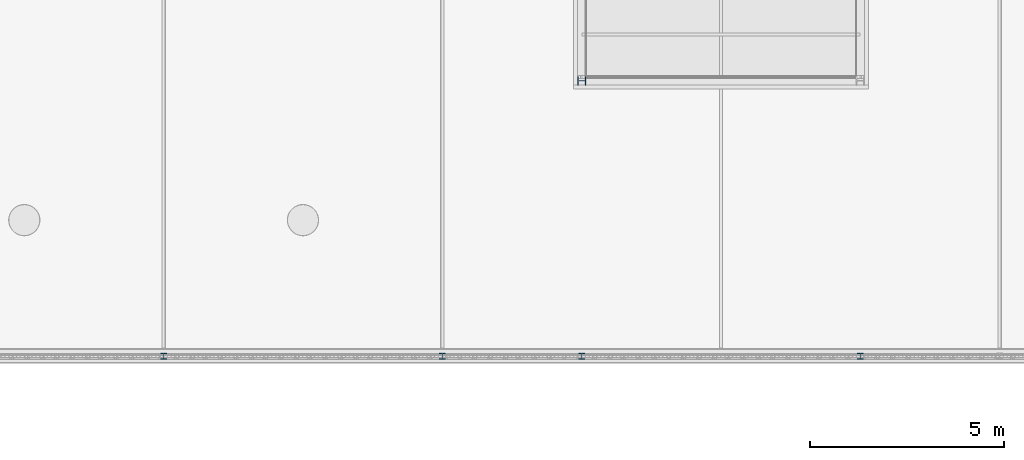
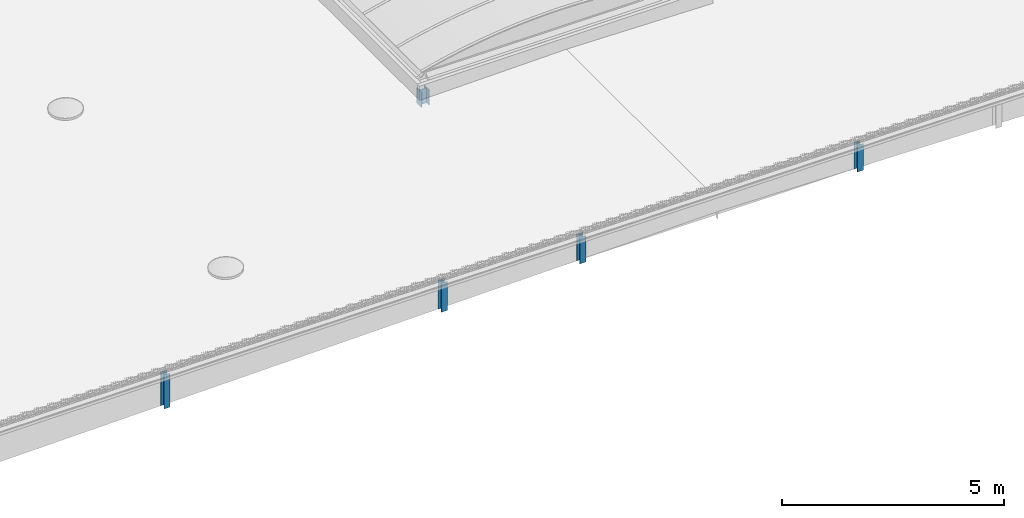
# One storey, part 23 of 81: 5 columns.
"""IFC2X3 building model written with IfcOpenShell, lengths in millimetres."""

import ifcopenshell
import ifcopenshell.guid

model = None  # the IFC model being written
_history = None  # IfcOwnerHistory: only IFC2X3 demands one
_inside = {}  # id of a spatial element -> (the spatial element, [elements in it])
_under = {}  # id of a project, library or spatial element -> (it, [spatial elements below it])
_declared = {}  # id of a project -> (the project, [libraries it declares])
_typed = {}  # id of a type object -> (the type object, [elements of that type])
_made_of = {}  # id of a material, layer set ... -> (it, [elements and type objects made of it])


def new_model(schema):
    """Start an empty IFC model of exactly this schema.

    Asked for "IFC4X3", IfcOpenShell would pick the latest addendum, in which some entities
    have other attributes; the version numbers below select the first issue.
    IFC2X3 requires an IfcOwnerHistory on every rooted entity: one is made here for all.
    """
    global model, _history
    if schema == "IFC4X3":
        model = ifcopenshell.file(schema_version=(4, 3, 0, 0))
    else:
        model = ifcopenshell.file(schema=schema)
    _inside.clear()
    _under.clear()
    _declared.clear()
    _typed.clear()
    _made_of.clear()
    _history = None
    if model.schema == "IFC2X3":
        org = make("IfcOrganization", Name="unknown")
        user = make(
            "IfcPersonAndOrganization",
            ThePerson=make("IfcPerson", FamilyName="unknown"),
            TheOrganization=org,
        )
        app = make(
            "IfcApplication",
            ApplicationDeveloper=org,
            Version="unknown",
            ApplicationFullName="unknown",
            ApplicationIdentifier="unknown",
        )
        _history = make(
            "IfcOwnerHistory",
            OwningUser=user,
            OwningApplication=app,
            ChangeAction="ADDED",
            CreationDate=0,
        )
    return model


def make(cls, **values):
    """One entity of the class cls with the attributes given. An attribute that is None is left unset."""
    return model.create_entity(
        cls, **{name: value for name, value in values.items() if value is not None}
    )


def entity(cls, *values):
    """Any entity or typed value of the class cls, its attributes in the order of the schema. None: left unset."""
    e = model.create_entity(cls)
    for i, value in enumerate(values):
        if value is not None:
            e[i] = value
    return e


def rooted(cls, **values):
    """An entity with a GlobalId (a new one), such as an element, a storey or a relation."""
    return make(cls, GlobalId=ifcopenshell.guid.new(), OwnerHistory=_history, **values)


def si_unit(unit_type, name, prefix=None):
    """IfcSIUnit, for example si_unit("LENGTHUNIT", "METRE", prefix="MILLI")."""
    return make("IfcSIUnit", UnitType=unit_type, Prefix=prefix, Name=name)


def converted_unit(unit_type, name, factor, base, dimensions=None, offset=None):
    """IfcConversionBasedUnit, such as the inch: factor (a typed value) times the base unit."""
    return make(
        "IfcConversionBasedUnit"
        if offset is None
        else "IfcConversionBasedUnitWithOffset",
        ConversionOffset=offset,
        Dimensions=None
        if dimensions is None
        else entity("IfcDimensionalExponents", *dimensions),
        UnitType=unit_type,
        Name=name,
        ConversionFactor=make(
            "IfcMeasureWithUnit", ValueComponent=factor, UnitComponent=base
        ),
    )


def derived_unit(unit_type, elements):
    """IfcDerivedUnit: a product of units, each with its exponent."""
    return make(
        "IfcDerivedUnit",
        Elements=[
            make("IfcDerivedUnitElement", Unit=unit, Exponent=power)
            for unit, power in elements
        ],
        UnitType=unit_type,
    )


def money_unit(currency):
    """IfcMonetaryUnit."""
    return make("IfcMonetaryUnit", Currency=currency)


def assignment(units):
    """IfcUnitAssignment: the units of a project."""
    return None if units is None else make("IfcUnitAssignment", Units=units)


def point(xyz):
    """IfcCartesianPoint."""
    return None if xyz is None else make("IfcCartesianPoint", Coordinates=xyz)


def direction(xyz):
    """IfcDirection."""
    return None if xyz is None else make("IfcDirection", DirectionRatios=xyz)


def frame(location, z_axis=None, x_axis=None):
    """IfcAxis2Placement3D, a coordinate frame: its origin and axes. An axis left out is left unset."""
    return make(
        "IfcAxis2Placement3D",
        Location=point(location),
        Axis=direction(z_axis),
        RefDirection=direction(x_axis),
    )


def origin_with_axes():
    """The frame at (0, 0, 0) with the z axis (0, 0, 1) and the x axis (1, 0, 0) written out."""
    return frame((0.0, 0.0, 0.0), z_axis=(0.0, 0.0, 1.0), x_axis=(1.0, 0.0, 0.0))


def place(relative_to, where):
    """IfcLocalPlacement: puts the frame where relative to a parent placement (None: the world)."""
    return make(
        "IfcLocalPlacement", PlacementRelTo=relative_to, RelativePlacement=where
    )


def context(
    kind, dimensions, precision=None, world=None, true_north=None, identifier=None
):
    """IfcGeometricRepresentationContext, for example the 3D "Model" context."""
    return make(
        "IfcGeometricRepresentationContext",
        ContextIdentifier=identifier,
        ContextType=kind,
        CoordinateSpaceDimension=dimensions,
        Precision=precision,
        WorldCoordinateSystem=world,
        TrueNorth=true_north,
    )


def subcontext(parent, identifier, kind, view, scale=None):
    """IfcGeometricRepresentationSubContext, for example "Body" below "Model"."""
    return make(
        "IfcGeometricRepresentationSubContext",
        ContextIdentifier=identifier,
        ContextType=kind,
        ParentContext=parent,
        TargetScale=scale,
        TargetView=view,
    )


def project(units=None, contexts=None):
    """IfcProject with its units and contexts."""
    return rooted(
        "IfcProject",
        Name="project",
        RepresentationContexts=contexts,
        UnitsInContext=assignment(units),
    )


def spatial(cls, under=None, at=None, **own):
    """A site, building, storey or space (cls), placed at a placement, below another one or the project."""
    s = rooted(cls, ObjectPlacement=at, **own)
    if under is not None:
        _under.setdefault(under.id(), (under, []))[1].append(s)
    return s


def faces_of(points, faces, orient=None, outer=None):
    """IfcFace entities. A face is a list of loops; a loop is a list of indices into points, from 0.

    orient and outer hold one flag for each loop. By default every Orientation is true, the
    first loop of a face is its IfcFaceOuterBound and the others are IfcFaceBound.
    """
    made = []
    for i, loops in enumerate(faces):
        bounds = []
        for j, loop in enumerate(loops):
            is_outer = j == 0 if outer is None else outer[i][j]
            bounds.append(
                make(
                    "IfcFaceOuterBound" if is_outer else "IfcFaceBound",
                    Bound=make("IfcPolyLoop", Polygon=[points[k] for k in loop]),
                    Orientation=True if orient is None else orient[i][j],
                )
            )
        made.append(make("IfcFace", Bounds=bounds))
    return made


def faceted_brep(points, faces, orient=None, outer=None, voids=None):
    """IfcFacetedBrep: a solid bounded by flat faces; with voids (closed shells), ...WithVoids."""
    shared = [point(p) for p in points]
    hull = make("IfcClosedShell", CfsFaces=faces_of(shared, faces, orient, outer))
    if voids is None:
        return make("IfcFacetedBrep", Outer=hull)
    return make(
        "IfcFacetedBrepWithVoids",
        Outer=hull,
        Voids=[
            make(cls, CfsFaces=faces_of(shared, fs, o, b)) for cls, fs, o, b in voids
        ],
    )


def shape(context_of_items, identifier, shape_type, items):
    """IfcShapeRepresentation: the items that make up one representation, for example the "Body"."""
    return make(
        "IfcShapeRepresentation",
        ContextOfItems=context_of_items,
        RepresentationIdentifier=identifier,
        RepresentationType=shape_type,
        Items=items,
    )


def material(Name=None, Category=None):
    """IfcMaterial."""
    return make("IfcMaterial", Name=Name, Category=Category)


def made_of(thing, what):
    """Note that an element or type object is made of a material, layer set ...; save() writes the relation."""
    if what is not None:
        _made_of.setdefault(what.id(), (what, []))[1].append(thing)
    return thing


def type_object(cls, material=None, **own):
    """A type object (cls), such as IfcWallType, which elements share."""
    return made_of(rooted(cls, **own), material)


def element(
    cls,
    number,
    at=None,
    inside=None,
    cuts=None,
    type_object=None,
    material=None,
    context=None,
    identifier="Body",
    shape_type=None,
    held_by="IfcProductDefinitionShape",
    body=None,
    shapes=None,
    **own,
):
    """One element of the class cls, such as IfcWall. Its Tag is "e" and its number.

    at: its placement. inside: the storey or other place that contains it. cuts: it is an
    opening in that element (IfcRelVoidsElement). A single representation is given by context,
    identifier, shape_type and body (its items); several are given by shapes. held_by: the class
    of the entity that holds the representations. save() writes the other relations.
    """
    e = rooted(cls, Tag="e%d" % number, ObjectPlacement=at, **own)
    if body is not None:
        shapes = [shape(context, identifier, shape_type, body)]
    if shapes is not None:
        e.Representation = make(held_by, Representations=shapes)
    if inside is not None:
        _inside.setdefault(inside.id(), (inside, []))[1].append(e)
    if cuts is not None:
        rooted(
            "IfcRelVoidsElement", RelatingBuildingElement=cuts, RelatedOpeningElement=e
        )
    if type_object is not None:
        _typed.setdefault(type_object.id(), (type_object, []))[1].append(e)
    return made_of(e, material)


def aggregate(whole, parts):
    """IfcRelAggregates: a whole, such as a stair, and the parts it consists of."""
    return rooted("IfcRelAggregates", RelatingObject=whole, RelatedObjects=parts)


def save(model, path):
    """Write the relations noted so far, then the file.

    IfcRelAggregates (storeys below a building ...), IfcRelContainedInSpatialStructure (elements
    in a storey), IfcRelDefinesByType, IfcRelAssociatesMaterial and IfcRelDeclares: one each for
    every whole, place, type object, material and project.
    """
    for whole, parts in _under.values():
        aggregate(whole, parts)
    for where, things in _inside.values():
        rooted(
            "IfcRelContainedInSpatialStructure",
            RelatedElements=things,
            RelatingStructure=where,
        )
    for kind, things in _typed.values():
        rooted("IfcRelDefinesByType", RelatedObjects=things, RelatingType=kind)
    for what, things in _made_of.values():
        rooted("IfcRelAssociatesMaterial", RelatedObjects=things, RelatingMaterial=what)
    for by, libraries in _declared.values():
        rooted("IfcRelDeclares", RelatingContext=by, RelatedDefinitions=libraries)
    model.write(path)


model = new_model("IFC2X3")

# Units and contexts
model_context = context("Model", 3, precision=0.01, world=origin_with_axes(), true_north=direction((0.0, 1.0)))
body_context = subcontext(model_context, "Body", "Model", "MODEL_VIEW")
ifc_project = project(units=[si_unit("LENGTHUNIT", "METRE", prefix="MILLI"), si_unit("AREAUNIT", "SQUARE_METRE"), si_unit("VOLUMEUNIT", "CUBIC_METRE"), converted_unit("PLANEANGLEUNIT", "DEGREE", entity("IfcPlaneAngleMeasure", 0.0174532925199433), si_unit("PLANEANGLEUNIT", "RADIAN"), dimensions=[0, 0, 0, 0, 0, 0, 0]), money_unit("EUR"), converted_unit("TIMEUNIT", "Year", entity("IfcTimeMeasure", 31557600.0), si_unit("TIMEUNIT", "SECOND"), dimensions=[0, 0, 1, 0, 0, 0, 0]), si_unit("MASSUNIT", "GRAM", prefix="KILO"), si_unit("THERMODYNAMICTEMPERATUREUNIT", "DEGREE_CELSIUS"), si_unit("LUMINOUSINTENSITYUNIT", "LUMEN"), si_unit("ENERGYUNIT", "JOULE", prefix="MEGA"), derived_unit("THERMALCONDUCTANCEUNIT", [(si_unit("POWERUNIT", "WATT"), 1), (si_unit("LENGTHUNIT", "METRE"), -1), (si_unit("THERMODYNAMICTEMPERATUREUNIT", "KELVIN"), -1)]), derived_unit("SPECIFICHEATCAPACITYUNIT", [(si_unit("ENERGYUNIT", "JOULE"), 1), (si_unit("MASSUNIT", "GRAM", prefix="KILO"), -1), (si_unit("THERMODYNAMICTEMPERATUREUNIT", "KELVIN"), -1)]), derived_unit("MASSDENSITYUNIT", [(si_unit("MASSUNIT", "GRAM", prefix="KILO"), 1), (si_unit("VOLUMEUNIT", "CUBIC_METRE"), -1)])], contexts=[model_context])

# Site, building, storey
site_placement = place(None, origin_with_axes())
site = spatial("IfcSite", under=ifc_project, at=site_placement, Name="Site", CompositionType="ELEMENT")
building_placement = place(site_placement, origin_with_axes())
building = spatial("IfcBuilding", under=site, at=building_placement, Name="Naam gebouw", CompositionType="ELEMENT")
storey_placement = place(building_placement, frame((0.0, 0.0, 15320.0), z_axis=(0.0, 0.0, 1.0), x_axis=(1.0, 0.0, 0.0)))
storey = spatial("IfcBuildingStorey", under=building, at=storey_placement, Name="01 dak", CompositionType="ELEMENT", Elevation=15320.0)

# Columns
ifc_material = material(Name="Metaal - Staal C")
column_type_1 = type_object("IfcColumnType", Name="HEA220 220 x 210", PredefinedType="COLUMN")
column_1_placement = place(storey_placement, frame((101700.0, 69200.0, -70.00000000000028), z_axis=(0.0, 0.0, 1.0), x_axis=(-1.0, 0.0, 0.0)))
element("IfcColumn", 1, at=column_1_placement, inside=storey, type_object=column_type_1, material=ifc_material, Name="HEA220", ObjectType="COLUMN", context=body_context, shape_type="Brep", body=[
    faceted_brep([(-105.000000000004, -109.9999999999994, 419.9999999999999), (-105.000000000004, -109.9999999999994, 0.0), (-93.99999999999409, -109.9999999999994, 0.0), (-93.99999999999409, -109.9999999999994, 419.9999999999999), (-105.000000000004, 109.9999999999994, 419.9999999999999), (-105.000000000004, 109.9999999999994, 0.0), (-93.99999999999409, 109.9999999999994, 0.0), (-93.99999999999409, 3.500000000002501, 0.0), (93.99999999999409, 3.500000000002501, 0.0), (93.99999999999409, 109.9999999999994, 0.0), (105.000000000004, 109.9999999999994, 0.0), (105.000000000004, -109.9999999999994, 0.0), (93.99999999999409, -109.9999999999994, 0.0), (93.99999999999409, -3.500000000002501, 0.0), (-93.99999999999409, -3.500000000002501, 0.0), (-93.99999999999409, -3.500000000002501, 419.9999999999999), (93.99999999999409, -3.500000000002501, 419.9999999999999), (93.99999999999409, -109.9999999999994, 419.9999999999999), (105.000000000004, -109.9999999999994, 419.9999999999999), (105.000000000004, 109.9999999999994, 419.9999999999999), (93.99999999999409, 109.9999999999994, 419.9999999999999), (93.99999999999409, 3.500000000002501, 419.9999999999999), (-93.99999999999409, 3.500000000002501, 419.9999999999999), (-93.99999999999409, 109.9999999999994, 419.9999999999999)], [[[0, 1, 2, 3]], [[4, 5, 1, 0]], [[2, 1, 5, 6, 7, 8, 9, 10, 11, 12, 13, 14]], [[3, 2, 14, 15]], [[4, 0, 3, 15, 16, 17, 18, 19, 20, 21, 22, 23]], [[23, 6, 5, 4]], [[22, 7, 6, 23]], [[21, 8, 7, 22]], [[20, 9, 8, 21]], [[19, 10, 9, 20]], [[18, 11, 10, 19]], [[17, 12, 11, 18]], [[16, 13, 12, 17]], [[15, 14, 13, 16]]]),
])
column_type_2 = type_object("IfcColumnType", Name="HEA160 160 x 152", PredefinedType="COLUMN")
column_2_placement = place(storey_placement, frame((90899.99999999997, 62080.0, -271.9226341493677), z_axis=(0.0, 0.0, 1.0), x_axis=(-1.0, 0.0, 0.0)))
element("IfcColumn", 2, at=column_2_placement, inside=storey, type_object=column_type_2, material=ifc_material, Name="HEA160", ObjectType="COLUMN", context=body_context, shape_type="Brep", body=[
    faceted_brep([(-79.9999999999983, 76.00000000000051, 926.8832744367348), (-79.9999999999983, 76.00000000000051, 0.0), (-79.9999999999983, 67.00000000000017, 0.0), (-79.9999999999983, 67.00000000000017, 926.8832744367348), (79.9999999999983, 76.00000000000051, 926.8832744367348), (79.9999999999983, 76.00000000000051, 0.0), (79.9999999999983, 67.00000000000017, 0.0), (3.000000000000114, 67.00000000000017, 0.0), (3.000000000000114, -67.00000000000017, 0.0), (79.9999999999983, -67.00000000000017, 0.0), (79.9999999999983, -76.00000000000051, 0.0), (-79.9999999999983, -76.00000000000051, 0.0), (-79.9999999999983, -67.00000000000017, 0.0), (-3.000000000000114, -67.00000000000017, 0.0), (-3.000000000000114, 67.00000000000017, 0.0), (-3.000000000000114, 67.00000000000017, 926.8832744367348), (-3.000000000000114, -67.00000000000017, 926.8832744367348), (-79.9999999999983, -67.00000000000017, 926.8832744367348), (-79.9999999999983, -76.00000000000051, 926.8832744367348), (79.9999999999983, -76.00000000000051, 926.8832744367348), (79.9999999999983, -67.00000000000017, 926.8832744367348), (3.000000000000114, -67.00000000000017, 926.8832744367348), (3.000000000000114, 67.00000000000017, 926.8832744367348), (79.9999999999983, 67.00000000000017, 926.8832744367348)], [[[0, 1, 2, 3]], [[4, 5, 1, 0]], [[2, 1, 5, 6, 7, 8, 9, 10, 11, 12, 13, 14]], [[3, 2, 14, 15]], [[4, 0, 3, 15, 16, 17, 18, 19, 20, 21, 22, 23]], [[23, 6, 5, 4]], [[22, 7, 6, 23]], [[21, 8, 7, 22]], [[20, 9, 8, 21]], [[19, 10, 9, 20]], [[18, 11, 10, 19]], [[17, 12, 11, 18]], [[16, 13, 12, 17]], [[15, 14, 13, 16]]]),
])
column_3_placement = place(storey_placement, frame((101700.0, 62080.0, -72.09454259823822), z_axis=(0.0, 0.0, 1.0), x_axis=(-1.0, 0.0, 0.0)))
element("IfcColumn", 3, at=column_3_placement, inside=storey, type_object=column_type_2, material=ifc_material, Name="HEA160", ObjectType="COLUMN", context=body_context, shape_type="Brep", body=[
    faceted_brep([(-79.9999999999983, 76.00000000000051, 727.0551828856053), (-79.9999999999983, 76.00000000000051, 0.0), (-79.9999999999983, 67.00000000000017, 0.0), (-79.9999999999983, 67.00000000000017, 727.0551828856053), (79.9999999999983, 76.00000000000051, 727.0551828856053), (79.9999999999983, 76.00000000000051, 0.0), (79.9999999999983, 67.00000000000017, 0.0), (3.000000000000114, 67.00000000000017, 0.0), (3.000000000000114, -67.00000000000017, 0.0), (79.9999999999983, -67.00000000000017, 0.0), (79.9999999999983, -76.00000000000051, 0.0), (-79.9999999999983, -76.00000000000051, 0.0), (-79.9999999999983, -67.00000000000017, 0.0), (-3.000000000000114, -67.00000000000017, 0.0), (-3.000000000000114, 67.00000000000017, 0.0), (-3.000000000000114, 67.00000000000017, 727.0551828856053), (-3.000000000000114, -67.00000000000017, 727.0551828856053), (-79.9999999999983, -67.00000000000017, 727.0551828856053), (-79.9999999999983, -76.00000000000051, 727.0551828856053), (79.9999999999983, -76.00000000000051, 727.0551828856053), (79.9999999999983, -67.00000000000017, 727.0551828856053), (3.000000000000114, -67.00000000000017, 727.0551828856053), (3.000000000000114, 67.00000000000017, 727.0551828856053), (79.9999999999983, 67.00000000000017, 727.0551828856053)], [[[0, 1, 2, 3]], [[4, 5, 1, 0]], [[2, 1, 5, 6, 7, 8, 9, 10, 11, 12, 13, 14]], [[3, 2, 14, 15]], [[4, 0, 3, 15, 16, 17, 18, 19, 20, 21, 22, 23]], [[23, 6, 5, 4]], [[22, 7, 6, 23]], [[21, 8, 7, 22]], [[20, 9, 8, 21]], [[19, 10, 9, 20]], [[18, 11, 10, 19]], [[17, 12, 11, 18]], [[16, 13, 12, 17]], [[15, 14, 13, 16]]]),
])
column_4_placement = place(storey_placement, frame((98100.0, 62080.0, -138.7039064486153), z_axis=(0.0, 0.0, 1.0), x_axis=(-1.0, 0.0, 0.0)))
element("IfcColumn", 4, at=column_4_placement, inside=storey, type_object=column_type_2, material=ifc_material, Name="HEA160", ObjectType="COLUMN", context=body_context, shape_type="Brep", body=[
    faceted_brep([(-79.9999999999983, 76.00000000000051, 793.6645467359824), (-79.9999999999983, 76.00000000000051, 0.0), (-79.9999999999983, 67.00000000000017, 0.0), (-79.9999999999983, 67.00000000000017, 793.6645467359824), (79.9999999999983, 76.00000000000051, 793.6645467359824), (79.9999999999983, 76.00000000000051, 0.0), (79.9999999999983, 67.00000000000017, 0.0), (3.000000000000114, 67.00000000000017, 0.0), (3.000000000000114, -67.00000000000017, 0.0), (79.9999999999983, -67.00000000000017, 0.0), (79.9999999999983, -76.00000000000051, 0.0), (-79.9999999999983, -76.00000000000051, 0.0), (-79.9999999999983, -67.00000000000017, 0.0), (-3.000000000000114, -67.00000000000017, 0.0), (-3.000000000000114, 67.00000000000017, 0.0), (-3.000000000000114, 67.00000000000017, 793.6645467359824), (-3.000000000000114, -67.00000000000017, 793.6645467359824), (-79.9999999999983, -67.00000000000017, 793.6645467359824), (-79.9999999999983, -76.00000000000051, 793.6645467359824), (79.9999999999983, -76.00000000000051, 793.6645467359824), (79.9999999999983, -67.00000000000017, 793.6645467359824), (3.000000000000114, -67.00000000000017, 793.6645467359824), (3.000000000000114, 67.00000000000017, 793.6645467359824), (79.9999999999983, 67.00000000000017, 793.6645467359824)], [[[0, 1, 2, 3]], [[4, 5, 1, 0]], [[2, 1, 5, 6, 7, 8, 9, 10, 11, 12, 13, 14]], [[3, 2, 14, 15]], [[4, 0, 3, 15, 16, 17, 18, 19, 20, 21, 22, 23]], [[23, 6, 5, 4]], [[22, 7, 6, 23]], [[21, 8, 7, 22]], [[20, 9, 8, 21]], [[19, 10, 9, 20]], [[18, 11, 10, 19]], [[17, 12, 11, 18]], [[16, 13, 12, 17]], [[15, 14, 13, 16]]]),
])
column_5_placement = place(storey_placement, frame((108900.0, 62080.0, -72.30828128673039), z_axis=(0.0, 0.0, 1.0), x_axis=(-1.0, 0.0, 0.0)))
element("IfcColumn", 5, at=column_5_placement, inside=storey, type_object=column_type_2, material=ifc_material, Name="HEA160", ObjectType="COLUMN", context=body_context, shape_type="Brep", body=[
    faceted_brep([(-79.9999999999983, 75.9999999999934, 727.2689215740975), (-79.9999999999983, 75.9999999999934, 0.0), (-79.9999999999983, 66.99999999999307, 0.0), (-79.9999999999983, 66.99999999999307, 727.2689215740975), (79.9999999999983, 76.00000000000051, 727.2689215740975), (79.9999999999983, 76.00000000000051, 0.0), (79.9999999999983, 67.00000000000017, 0.0), (3.000000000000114, 67.00000000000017, 0.0), (3.000000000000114, -67.00000000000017, 0.0), (79.9999999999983, -67.00000000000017, 0.0), (79.9999999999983, -76.00000000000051, 0.0), (-79.9999999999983, -76.00000000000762, 0.0), (-79.9999999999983, -67.00000000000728, 0.0), (-3.000000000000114, -67.00000000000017, 0.0), (-3.000000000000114, 67.00000000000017, 0.0), (-3.000000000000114, 67.00000000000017, 727.2689215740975), (-3.000000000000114, -67.00000000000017, 727.2689215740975), (-79.9999999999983, -67.00000000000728, 727.2689215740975), (-79.9999999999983, -76.00000000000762, 727.2689215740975), (79.9999999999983, -76.00000000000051, 727.2689215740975), (79.9999999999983, -67.00000000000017, 727.2689215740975), (3.000000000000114, -67.00000000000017, 727.2689215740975), (3.000000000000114, 67.00000000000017, 727.2689215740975), (79.9999999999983, 67.00000000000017, 727.2689215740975)], [[[0, 1, 2, 3]], [[4, 5, 1, 0]], [[2, 1, 5, 6, 7, 8, 9, 10, 11, 12, 13, 14]], [[3, 2, 14, 15]], [[4, 0, 3, 15, 16, 17, 18, 19, 20, 21, 22, 23]], [[23, 6, 5, 4]], [[22, 7, 6, 23]], [[21, 8, 7, 22]], [[20, 9, 8, 21]], [[19, 10, 9, 20]], [[18, 11, 10, 19]], [[17, 12, 11, 18]], [[16, 13, 12, 17]], [[15, 14, 13, 16]]]),
])

save(model, "model.ifc")
